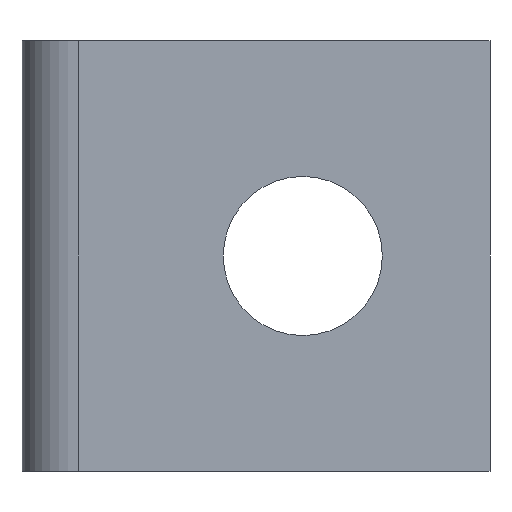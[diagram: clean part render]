
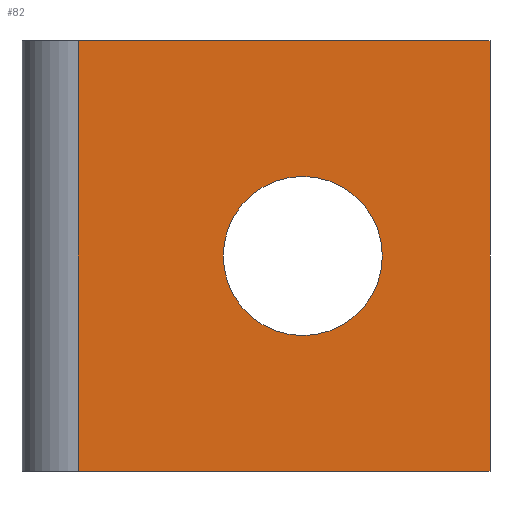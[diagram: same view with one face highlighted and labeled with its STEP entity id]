
A CAD part, front view. The second image highlights one B-rep face of the part: STEP entity #82.
In plain terms, the highlighted planar face has unit normal (0, -1, 0).
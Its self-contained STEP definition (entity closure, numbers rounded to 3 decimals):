
#1 = CARTESIAN_POINT ( 'NONE',  ( 15., 0., -11.5 ) ) ;
#2 = AXIS2_PLACEMENT_3D ( 'NONE', #1, #8, #3 ) ;
#3 = DIRECTION ( 'NONE',  ( 0., 0., 1. ) ) ;
#8 = DIRECTION ( 'NONE',  ( 0., 1., 0. ) ) ;
#10 = CIRCLE ( 'NONE', #2, 4.25 ) ;
#11 = CARTESIAN_POINT ( 'NONE',  ( 3., 0., 0. ) ) ;
#38 = VERTEX_POINT ( 'NONE', #216 ) ;
#43 = EDGE_CURVE ( 'NONE', #38, #44, #206, .T. ) ;
#44 = VERTEX_POINT ( 'NONE', #201 ) ;
#61 = EDGE_CURVE ( 'NONE', #62, #75, #268, .T. ) ;
#62 = VERTEX_POINT ( 'NONE', #264 ) ;
#63 = ORIENTED_EDGE ( 'NONE', *, *, #64, .T. ) ;
#64 = EDGE_CURVE ( 'NONE', #62, #87, #263, .T. ) ;
#65 = ORIENTED_EDGE ( 'NONE', *, *, #90, .T. ) ;
#75 = VERTEX_POINT ( 'NONE', #11 ) ;
#76 = EDGE_CURVE ( 'NONE', #44, #38, #10, .T. ) ;
#77 = EDGE_CURVE ( 'NONE', #75, #92, #314, .T. ) ;
#78 = ORIENTED_EDGE ( 'NONE', *, *, #61, .F. ) ;
#79 = ORIENTED_EDGE ( 'NONE', *, *, #43, .T. ) ;
#80 = ORIENTED_EDGE ( 'NONE', *, *, #77, .F. ) ;
#81 = EDGE_LOOP ( 'NONE', ( #80, #78, #63, #65 ) ) ;
#82 = ADVANCED_FACE ( 'NONE', ( #310, #309 ), #308, .T. ) ;
#83 = ORIENTED_EDGE ( 'NONE', *, *, #76, .T. ) ;
#85 = EDGE_LOOP ( 'NONE', ( #83, #79 ) ) ;
#87 = VERTEX_POINT ( 'NONE', #299 ) ;
#90 = EDGE_CURVE ( 'NONE', #87, #92, #294, .T. ) ;
#92 = VERTEX_POINT ( 'NONE', #290 ) ;
#201 = CARTESIAN_POINT ( 'NONE',  ( 15., 0., -7.25 ) ) ;
#202 = DIRECTION ( 'NONE',  ( 0., 0., 1. ) ) ;
#203 = DIRECTION ( 'NONE',  ( 0., 1., 0. ) ) ;
#204 = CARTESIAN_POINT ( 'NONE',  ( 15., 0., -11.5 ) ) ;
#205 = AXIS2_PLACEMENT_3D ( 'NONE', #204, #203, #202 ) ;
#206 = CIRCLE ( 'NONE', #205, 4.25 ) ;
#216 = CARTESIAN_POINT ( 'NONE',  ( 15., 0., -15.75 ) ) ;
#260 = DIRECTION ( 'NONE',  ( 1., 0., 0. ) ) ;
#261 = VECTOR ( 'NONE', #260, 1000. ) ;
#262 = CARTESIAN_POINT ( 'NONE',  ( 3., 0., -23. ) ) ;
#263 = LINE ( 'NONE', #262, #261 ) ;
#264 = CARTESIAN_POINT ( 'NONE',  ( 3., 0., -23. ) ) ;
#265 = DIRECTION ( 'NONE',  ( 0., 0., 1. ) ) ;
#266 = VECTOR ( 'NONE', #265, 1000. ) ;
#267 = CARTESIAN_POINT ( 'NONE',  ( 3., 0., -23. ) ) ;
#268 = LINE ( 'NONE', #267, #266 ) ;
#290 = CARTESIAN_POINT ( 'NONE',  ( 25., 0., 0. ) ) ;
#291 = DIRECTION ( 'NONE',  ( 0., 0., 1. ) ) ;
#292 = VECTOR ( 'NONE', #291, 1000. ) ;
#293 = CARTESIAN_POINT ( 'NONE',  ( 25., 0., -23. ) ) ;
#294 = LINE ( 'NONE', #293, #292 ) ;
#299 = CARTESIAN_POINT ( 'NONE',  ( 25., 0., -23. ) ) ;
#304 = DIRECTION ( 'NONE',  ( 0., 0., -1. ) ) ;
#305 = DIRECTION ( 'NONE',  ( 0., -1., 0. ) ) ;
#306 = CARTESIAN_POINT ( 'NONE',  ( 3., 0., -23. ) ) ;
#307 = AXIS2_PLACEMENT_3D ( 'NONE', #306, #305, #304 ) ;
#308 = PLANE ( 'NONE',  #307 ) ;
#309 = FACE_OUTER_BOUND ( 'NONE', #81, .T. ) ;
#310 = FACE_BOUND ( 'NONE', #85, .T. ) ;
#311 = DIRECTION ( 'NONE',  ( 1., 0., 0. ) ) ;
#312 = VECTOR ( 'NONE', #311, 1000. ) ;
#313 = CARTESIAN_POINT ( 'NONE',  ( 3., 0., 0. ) ) ;
#314 = LINE ( 'NONE', #313, #312 ) ;
